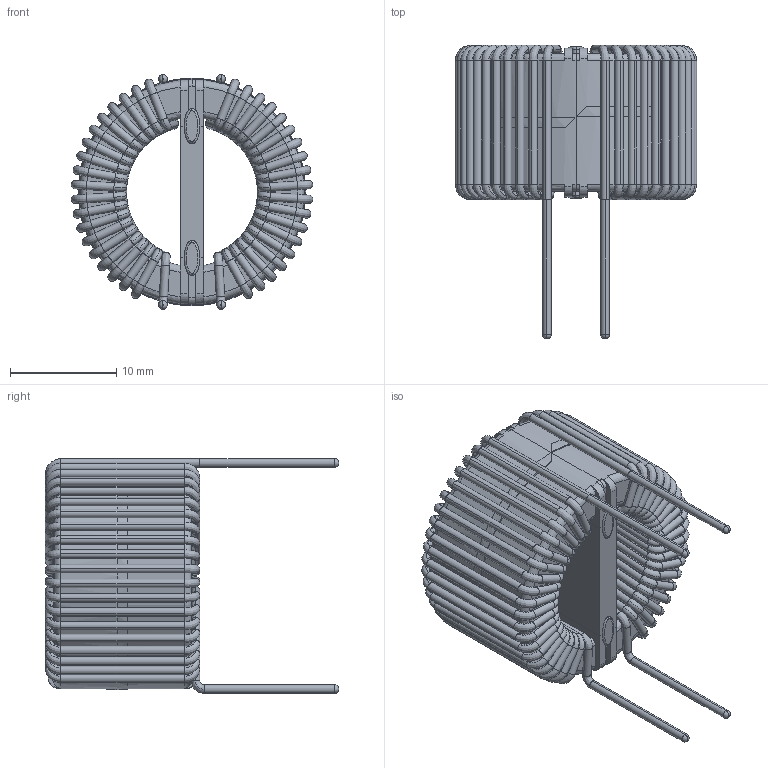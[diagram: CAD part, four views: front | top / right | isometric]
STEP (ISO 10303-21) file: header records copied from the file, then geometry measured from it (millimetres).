
FILE_DESCRIPTION (( 'STEP AP203' ), '1' );
FILE_NAME ('GN-H-502U-4A.STEP', '2020-08-05T13:51:05', ( 'Windows User' ), ( '' ), 'SwSTEP 2.0', 'SolidWorks 2015', '' );
FILE_SCHEMA (( 'CONFIG_CONTROL_DESIGN' ));
Length unit declared in the file: inch
Products named in the file (4): GN-H-502U-4A - COIL; GN-H-502U-4A; GN-H-502U-4A - CORE; GN-H-502U-4A - FRAME
Assembly tree (3 placements, depth 2):
  GN-H-502U-4A
    GN-H-502U-4A - CORE
    GN-H-502U-4A - COIL
    GN-H-502U-4A - FRAME
Bounding box: 22.74 x 27.63 x 22.1 mm (x, y, z)
Volume: 3755.6 mm3; surface area: 6159.1 mm2
Topology: 12 solids, 12 shells, 818 faces, 2274 edges, 1478 vertices
Faces by surface type: cylinder 338, bspline 204, torus 192, plane 84
Entity records: 39843 total; most frequent: CARTESIAN_POINT 18479, DIRECTION 4720, ORIENTED_EDGE 4548, EDGE_CURVE 2274, AXIS2_PLACEMENT_3D 2102, CIRCLE 1482, VERTEX_POINT 1478, ADVANCED_FACE 818
